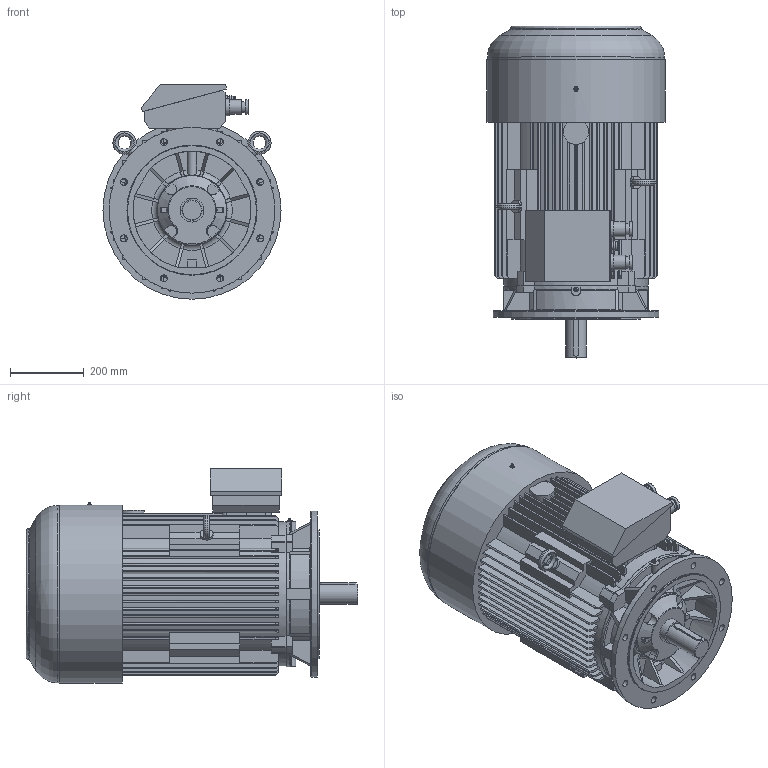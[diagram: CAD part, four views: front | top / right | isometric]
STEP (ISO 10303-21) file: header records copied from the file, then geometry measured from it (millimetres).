
FILE_DESCRIPTION( ( 'Unknown' ), '1' );
FILE_NAME( 'P:/3D_Bry³y silników skatalogowane/SIE/2SIE225/2SIE225_STEP/2SIEK 225_M2 silnik.stp', 'Unknown', ( 'Unknown' ), ( 'Unknown' ), 'XStep 1.0', 'Unknown', ' ' );
FILE_SCHEMA( ( 'CONFIG_CONTROL_DESIGN' ) );
Length unit declared in the file: millimetre
Products named in the file (1): 1
Bounding box: 483 x 900 x 581.55 mm (x, y, z)
Volume: 115659026.9 mm3; surface area: 3018858.2 mm2
Topology: 1 solids, 5 shells, 810 faces, 2222 edges, 1450 vertices
Faces by surface type: plane 528, cylinder 209, torus 50, cone 16, bspline 5, sphere 2
Full cylindrical faces by diameter (mm): 1.6 x2, 5 x4, 10 x3, 12.891 x1, 19 x8, 20 x1, 22.969 x1, 26.249 x1, 27 x1, 30 x4, 35 x4, 40 x4, 47 x2, 55 x1, 64.5 x1, 188 x1, 190 x1, 349.991 x1, 449.991 x1, 480 x1, 483 x1
Entity records: 28067 total; most frequent: CARTESIAN_POINT 7588, ORIENTED_EDGE 4258, DIRECTION 4231, EDGE_CURVE 2129, AXIS2_PLACEMENT_3D 1471, VERTEX_POINT 1433, LINE 1289, VECTOR 1289
